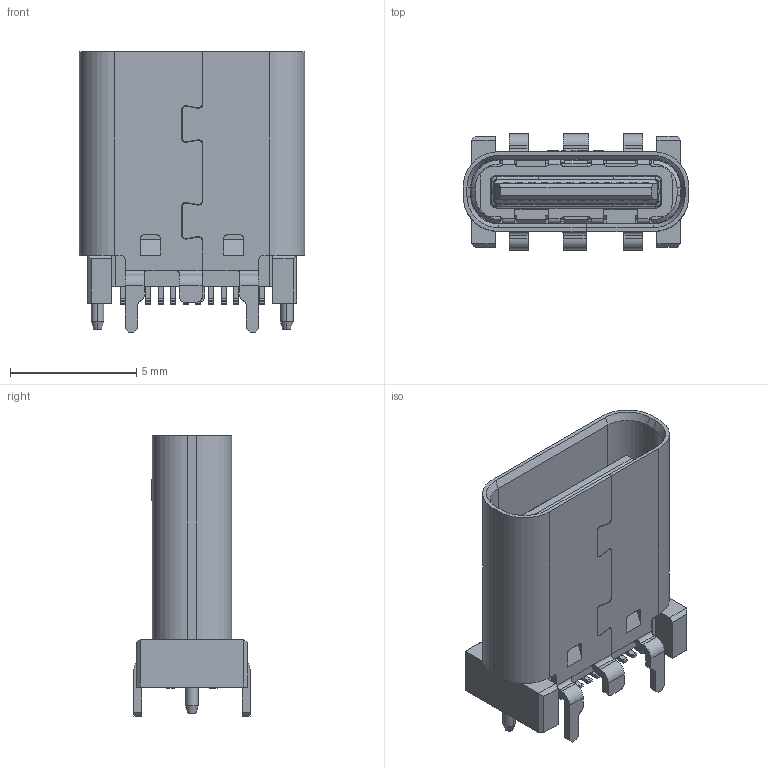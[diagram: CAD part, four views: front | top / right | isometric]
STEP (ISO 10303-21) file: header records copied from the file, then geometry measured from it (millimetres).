
FILE_DESCRIPTION (( 'STEP AP203' ), '1' );
FILE_NAME ('U5156-24PN10.0L.stp', '2026-09-21T07:41:05', ( '' ), ( '' ), 'SwSTEP 2.0', 'SolidWorks 2020', '' );
FILE_SCHEMA (( 'CONFIG_CONTROL_DESIGN' ));
Length unit declared in the file: millimetre
Products named in the file (30): U5156-24PN10.0L(2)^U5156-24PN10.0L; ____-____2-14659_1^DRW0001_7_ASM_1_ASM_P0001_ASM_ASM_48_ASM_ASM_1_ASM_24PIN____3D_ASM_1_ASM_24PIN____3D-1_____ASM_1_ASM_U5156-24PN10.0L(2)_U5156-24PN10.0L; PRT0004_16_1^P0001_ASM_ASM_48_ASM_ASM_1_ASM_24PIN____3D_ASM_1_ASM_24PIN____3D-1_____ASM_1_ASM_U5156-24PN10.0L(2)_U5156-24PN10.0L; ____-____-29115_1^DRW0001_7_ASM_1_ASM_P0001_ASM_ASM_48_ASM_ASM_1_ASM_24PIN____3D_ASM_1_ASM_24PIN____3D-1_____ASM_1_ASM_U5156-24PN10.0L(2)_U5156-24PN10.0L; 6_5HMD0002_30_1_1_17_1^6_5HMD0002_30_ASM_1_ASM_2_ASM_A_ASM_6_5HMD0001_ASM_35_ASM_1_ASM_1_A_ASM_6_5H16P0001_ASM_30_ASM_1_ASM_1__ASM_P0001_ASM_ASM_48_ASM_ASM_1_ASM_24PIN____3D_ASM_1_ASM_24PIN___~; DRW0001_7_ASM_1_ASM^P0001_ASM_ASM_48_ASM_ASM_1_ASM_24PIN____3D_ASM_1_ASM_24PIN____3D-1_____ASM_1_ASM_U5156-24PN10.0L(2)_U5156-24PN10.0L; ____-____-43489_1^DRW0001_7_ASM_1_ASM_P0001_ASM_ASM_48_ASM_ASM_1_ASM_24PIN____3D_ASM_1_ASM_24PIN____3D-1_____ASM_1_ASM_U5156-24PN10.0L(2)_U5156-24PN10.0L; 24PIN____3D_ASM_1_ASM^24PIN____3D-1_____ASM_1_ASM_U5156-24PN10.0L(2)_U5156-24PN10.0L; ____-____-59333_1^DRW0001_7_ASM_1_ASM_P0001_ASM_ASM_48_ASM_ASM_1_ASM_24PIN____3D_ASM_1_ASM_24PIN____3D-1_____ASM_1_ASM_U5156-24PN10.0L(2)_U5156-24PN10.0L; 6_5HMD0002_30_ASM_1_ASM_2_ASM_A_ASM^6_5HMD0001_ASM_35_ASM_1_ASM_1_A_ASM_6_5H16P0001_ASM_30_ASM_1_ASM_1__ASM_P0001_ASM_ASM_48_ASM_ASM_1_ASM_24PIN____3D_ASM_1_ASM_24PIN____3D-1_____ASM_1_ASM_U51~; 6_400_9_1_11_1^6_40001_ASM_13_ASM_1_ASM_3_ASM__ASM_6_5HMD0003_ASM_27_ASM_1_ASM_2_A_ASM_6_5HMD0001_ASM_35_ASM_1_ASM_1_A_ASM_6_5H16P0001_ASM_30_ASM_1_ASM_1__ASM_P0001_ASM_ASM_48_ASM_ASM_1_ASM_24P~; ____-____-47917_1^DRW0001_7_ASM_1_ASM_P0001_ASM_ASM_48_ASM_ASM_1_ASM_24PIN____3D_ASM_1_ASM_24PIN____3D-1_____ASM_1_ASM_U5156-24PN10.0L(2)_U5156-24PN10.0L; ____-____-54195_1^DRW0001_7_ASM_1_ASM_P0001_ASM_ASM_48_ASM_ASM_1_ASM_24PIN____3D_ASM_1_ASM_24PIN____3D-1_____ASM_1_ASM_U5156-24PN10.0L(2)_U5156-24PN10.0L; U5156-24PN10.0L; ____-____2-23582_1^DRW0001_7_ASM_1_ASM_P0001_ASM_ASM_48_ASM_ASM_1_ASM_24PIN____3D_ASM_1_ASM_24PIN____3D-1_____ASM_1_ASM_U5156-24PN10.0L(2)_U5156-24PN10.0L; WAIKE_1_1^P0001_ASM_ASM_48_ASM_ASM_1_ASM_24PIN____3D_ASM_1_ASM_24PIN____3D-1_____ASM_1_ASM_U5156-24PN10.0L(2)_U5156-24PN10.0L; 6_40001_ASM_13_ASM_1_ASM_3_ASM__ASM^6_5HMD0003_ASM_27_ASM_1_ASM_2_A_ASM_6_5HMD0001_ASM_35_ASM_1_ASM_1_A_ASM_6_5H16P0001_ASM_30_ASM_1_ASM_1__ASM_P0001_ASM_ASM_48_ASM_ASM_1_ASM_24PIN____3D_ASM_1_~; 6_5HMD0003_ASM_27_ASM_1_ASM_2_A_ASM^6_5HMD0001_ASM_35_ASM_1_ASM_1_A_ASM_6_5H16P0001_ASM_30_ASM_1_ASM_1__ASM_P0001_ASM_ASM_48_ASM_ASM_1_ASM_24PIN____3D_ASM_1_ASM_24PIN____3D-1_____ASM_1_ASM_U51~; 6_5HMD0001_ASM_35_ASM_1_ASM_1_A_ASM^6_5H16P0001_ASM_30_ASM_1_ASM_1__ASM_P0001_ASM_ASM_48_ASM_ASM_1_ASM_24PIN____3D_ASM_1_ASM_24PIN____3D-1_____ASM_1_ASM_U5156-24PN10.0L(2)_U5156-24PN10.0L; ____-____-588_1^DRW0001_7_ASM_1_ASM_P0001_ASM_ASM_48_ASM_ASM_1_ASM_24PIN____3D_ASM_1_ASM_24PIN____3D-1_____ASM_1_ASM_U5156-24PN10.0L(2)_U5156-24PN10.0L; 00008_3_1^P0001_ASM_ASM_48_ASM_ASM_1_ASM_24PIN____3D_ASM_1_ASM_24PIN____3D-1_____ASM_1_ASM_U5156-24PN10.0L(2)_U5156-24PN10.0L; 6_5H16P0001_ASM_30_ASM_1_ASM_1__ASM^P0001_ASM_ASM_48_ASM_ASM_1_ASM_24PIN____3D_ASM_1_ASM_24PIN____3D-1_____ASM_1_ASM_U5156-24PN10.0L(2)_U5156-24PN10.0L; ____-____-32809_1^DRW0001_7_ASM_1_ASM_P0001_ASM_ASM_48_ASM_ASM_1_ASM_24PIN____3D_ASM_1_ASM_24PIN____3D-1_____ASM_1_ASM_U5156-24PN10.0L(2)_U5156-24PN10.0L; 24PIN____3D-1_____ASM_1_ASM^U5156-24PN10.0L(2)_U5156-24PN10.0L; EM_1_1^P0001_ASM_ASM_48_ASM_ASM_1_ASM_24PIN____3D_ASM_1_ASM_24PIN____3D-1_____ASM_1_ASM_U5156-24PN10.0L(2)_U5156-24PN10.0L; ____-____2-15741_1^DRW0001_7_ASM_1_ASM_P0001_ASM_ASM_48_ASM_ASM_1_ASM_24PIN____3D_ASM_1_ASM_24PIN____3D-1_____ASM_1_ASM_U5156-24PN10.0L(2)_U5156-24PN10.0L; ____-____-5016_1^DRW0001_7_ASM_1_ASM_P0001_ASM_ASM_48_ASM_ASM_1_ASM_24PIN____3D_ASM_1_ASM_24PIN____3D-1_____ASM_1_ASM_U5156-24PN10.0L(2)_U5156-24PN10.0L; P0001_ASM_ASM_48_ASM_ASM_1_ASM^24PIN____3D_ASM_1_ASM_24PIN____3D-1_____ASM_1_ASM_U5156-24PN10.0L(2)_U5156-24PN10.0L; ____-____-49765_1^DRW0001_7_ASM_1_ASM_P0001_ASM_ASM_48_ASM_ASM_1_ASM_24PIN____3D_ASM_1_ASM_24PIN____3D-1_____ASM_1_ASM_U5156-24PN10.0L(2)_U5156-24PN10.0L
Assembly tree (41 placements, depth 10):
  U5156-24PN10.0L
    U5156-24PN10.0L(2)^U5156-24PN10.0L
      24PIN____3D-1_____ASM_1_ASM^U5156-24PN10.0L(2)_U5156-24PN10.0L
        24PIN____3D_ASM_1_ASM^24PIN____3D-1_____ASM_1_ASM_U5156-24PN10.0L(2)_U5156-24PN10.0L
          P0001_ASM_ASM_48_ASM_ASM_1_ASM^24PIN____3D_ASM_1_ASM_24PIN____3D-1_____ASM_1_ASM_U5156-24PN10.0L(2)_U5156-24PN10.0L
            DRW0001_7_ASM_1_ASM^P0001_ASM_ASM_48_ASM_ASM_1_ASM_24PIN____3D_ASM_1_ASM_24PIN____3D-1_____ASM_1_ASM_U5156-24PN10.0L(2)_U5156-24PN10.0L
              ____-____-588_1^DRW0001_7_ASM_1_ASM_P0001_ASM_ASM_48_ASM_ASM_1_ASM_24PIN____3D_ASM_1_ASM_24PIN____3D-1_____ASM_1_ASM_U5156-24PN10.0L(2)_U5156-24PN10.0L
              ____-____-5016_1^DRW0001_7_ASM_1_ASM_P0001_ASM_ASM_48_ASM_ASM_1_ASM_24PIN____3D_ASM_1_ASM_24PIN____3D-1_____ASM_1_ASM_U5156-24PN10.0L(2)_U5156-24PN10.0L
              ____-____2-14659_1^DRW0001_7_ASM_1_ASM_P0001_ASM_ASM_48_ASM_ASM_1_ASM_24PIN____3D_ASM_1_ASM_24PIN____3D-1_____ASM_1_ASM_U5156-24PN10.0L(2)_U5156-24PN10.0L
              ____-____2-15741_1^DRW0001_7_ASM_1_ASM_P0001_ASM_ASM_48_ASM_ASM_1_ASM_24PIN____3D_ASM_1_ASM_24PIN____3D-1_____ASM_1_ASM_U5156-24PN10.0L(2)_U5156-24PN10.0L
              ____-____2-23582_1^DRW0001_7_ASM_1_ASM_P0001_ASM_ASM_48_ASM_ASM_1_ASM_24PIN____3D_ASM_1_ASM_24PIN____3D-1_____ASM_1_ASM_U5156-24PN10.0L(2)_U5156-24PN10.0L
              ____-____-29115_1^DRW0001_7_ASM_1_ASM_P0001_ASM_ASM_48_ASM_ASM_1_ASM_24PIN____3D_ASM_1_ASM_24PIN____3D-1_____ASM_1_ASM_U5156-24PN10.0L(2)_U5156-24PN10.0L
              ____-____-32809_1^DRW0001_7_ASM_1_ASM_P0001_ASM_ASM_48_ASM_ASM_1_ASM_24PIN____3D_ASM_1_ASM_24PIN____3D-1_____ASM_1_ASM_U5156-24PN10.0L(2)_U5156-24PN10.0L
              ____-____-43489_1^DRW0001_7_ASM_1_ASM_P0001_ASM_ASM_48_ASM_ASM_1_ASM_24PIN____3D_ASM_1_ASM_24PIN____3D-1_____ASM_1_ASM_U5156-24PN10.0L(2)_U5156-24PN10.0L
              ____-____-47917_1^DRW0001_7_ASM_1_ASM_P0001_ASM_ASM_48_ASM_ASM_1_ASM_24PIN____3D_ASM_1_ASM_24PIN____3D-1_____ASM_1_ASM_U5156-24PN10.0L(2)_U5156-24PN10.0L
              ____-____-49765_1^DRW0001_7_ASM_1_ASM_P0001_ASM_ASM_48_ASM_ASM_1_ASM_24PIN____3D_ASM_1_ASM_24PIN____3D-1_____ASM_1_ASM_U5156-24PN10.0L(2)_U5156-24PN10.0L
              ____-____-54195_1^DRW0001_7_ASM_1_ASM_P0001_ASM_ASM_48_ASM_ASM_1_ASM_24PIN____3D_ASM_1_ASM_24PIN____3D-1_____ASM_1_ASM_U5156-24PN10.0L(2)_U5156-24PN10.0L
              ____-____-59333_1^DRW0001_7_ASM_1_ASM_P0001_ASM_ASM_48_ASM_ASM_1_ASM_24PIN____3D_ASM_1_ASM_24PIN____3D-1_____ASM_1_ASM_U5156-24PN10.0L(2)_U5156-24PN10.0L
            6_5H16P0001_ASM_30_ASM_1_ASM_1__ASM^P0001_ASM_ASM_48_ASM_ASM_1_ASM_24PIN____3D_ASM_1_ASM_24PIN____3D-1_____ASM_1_ASM_U5156-24PN10.0L(2)_U5156-24PN10.0L
              6_5HMD0001_ASM_35_ASM_1_ASM_1_A_ASM^6_5H16P0001_ASM_30_ASM_1_ASM_1__ASM_P0001_ASM_ASM_48_ASM_ASM_1_ASM_24PIN____3D_ASM_1_ASM_24PIN____3D-1_____ASM_1_ASM_U5156-24PN10.0L(2)_U5156-24PN10.0L
                6_5HMD0002_30_ASM_1_ASM_2_ASM_A_ASM^6_5HMD0001_ASM_35_ASM_1_ASM_1_A_ASM_6_5H16P0001_ASM_30_ASM_1_ASM_1__ASM_P0001_ASM_ASM_48_ASM_ASM_1_ASM_24PIN____3D_ASM_1_ASM_24PIN____3D-1_____ASM_1_ASM_U51~
                  6_5HMD0002_30_1_1_17_1^6_5HMD0002_30_ASM_1_ASM_2_ASM_A_ASM_6_5HMD0001_ASM_35_ASM_1_ASM_1_A_ASM_6_5H16P0001_ASM_30_ASM_1_ASM_1__ASM_P0001_ASM_ASM_48_ASM_ASM_1_ASM_24PIN____3D_ASM_1_ASM_24PIN___~
                6_5HMD0003_ASM_27_ASM_1_ASM_2_A_ASM^6_5HMD0001_ASM_35_ASM_1_ASM_1_A_ASM_6_5H16P0001_ASM_30_ASM_1_ASM_1__ASM_P0001_ASM_ASM_48_ASM_ASM_1_ASM_24PIN____3D_ASM_1_ASM_24PIN____3D-1_____ASM_1_ASM_U51~
                  6_40001_ASM_13_ASM_1_ASM_3_ASM__ASM^6_5HMD0003_ASM_27_ASM_1_ASM_2_A_ASM_6_5HMD0001_ASM_35_ASM_1_ASM_1_A_ASM_6_5H16P0001_ASM_30_ASM_1_ASM_1__ASM_P0001_ASM_ASM_48_ASM_ASM_1_ASM_24PIN____3D_ASM_1_~
            DRW0001_7_ASM_1_ASM^P0001_ASM_ASM_48_ASM_ASM_1_ASM_24PIN____3D_ASM_1_ASM_24PIN____3D-1_____ASM_1_ASM_U5156-24PN10.0L(2)_U5156-24PN10.0L
              ____-____-588_1^DRW0001_7_ASM_1_ASM_P0001_ASM_ASM_48_ASM_ASM_1_ASM_24PIN____3D_ASM_1_ASM_24PIN____3D-1_____ASM_1_ASM_U5156-24PN10.0L(2)_U5156-24PN10.0L
              ____-____-5016_1^DRW0001_7_ASM_1_ASM_P0001_ASM_ASM_48_ASM_ASM_1_ASM_24PIN____3D_ASM_1_ASM_24PIN____3D-1_____ASM_1_ASM_U5156-24PN10.0L(2)_U5156-24PN10.0L
              ____-____2-14659_1^DRW0001_7_ASM_1_ASM_P0001_ASM_ASM_48_ASM_ASM_1_ASM_24PIN____3D_ASM_1_ASM_24PIN____3D-1_____ASM_1_ASM_U5156-24PN10.0L(2)_U5156-24PN10.0L
              ____-____2-15741_1^DRW0001_7_ASM_1_ASM_P0001_ASM_ASM_48_ASM_ASM_1_ASM_24PIN____3D_ASM_1_ASM_24PIN____3D-1_____ASM_1_ASM_U5156-24PN10.0L(2)_U5156-24PN10.0L
              ____-____2-23582_1^DRW0001_7_ASM_1_ASM_P0001_ASM_ASM_48_ASM_ASM_1_ASM_24PIN____3D_ASM_1_ASM_24PIN____3D-1_____ASM_1_ASM_U5156-24PN10.0L(2)_U5156-24PN10.0L
              ____-____-29115_1^DRW0001_7_ASM_1_ASM_P0001_ASM_ASM_48_ASM_ASM_1_ASM_24PIN____3D_ASM_1_ASM_24PIN____3D-1_____ASM_1_ASM_U5156-24PN10.0L(2)_U5156-24PN10.0L
              ____-____-32809_1^DRW0001_7_ASM_1_ASM_P0001_ASM_ASM_48_ASM_ASM_1_ASM_24PIN____3D_ASM_1_ASM_24PIN____3D-1_____ASM_1_ASM_U5156-24PN10.0L(2)_U5156-24PN10.0L
              ____-____-43489_1^DRW0001_7_ASM_1_ASM_P0001_ASM_ASM_48_ASM_ASM_1_ASM_24PIN____3D_ASM_1_ASM_24PIN____3D-1_____ASM_1_ASM_U5156-24PN10.0L(2)_U5156-24PN10.0L
              ____-____-47917_1^DRW0001_7_ASM_1_ASM_P0001_ASM_ASM_48_ASM_ASM_1_ASM_24PIN____3D_ASM_1_ASM_24PIN____3D-1_____ASM_1_ASM_U5156-24PN10.0L(2)_U5156-24PN10.0L
              ____-____-49765_1^DRW0001_7_ASM_1_ASM_P0001_ASM_ASM_48_ASM_ASM_1_ASM_24PIN____3D_ASM_1_ASM_24PIN____3D-1_____ASM_1_ASM_U5156-24PN10.0L(2)_U5156-24PN10.0L
              ____-____-54195_1^DRW0001_7_ASM_1_ASM_P0001_ASM_ASM_48_ASM_ASM_1_ASM_24PIN____3D_ASM_1_ASM_24PIN____3D-1_____ASM_1_ASM_U5156-24PN10.0L(2)_U5156-24PN10.0L
              ____-____-59333_1^DRW0001_7_ASM_1_ASM_P0001_ASM_ASM_48_ASM_ASM_1_ASM_24PIN____3D_ASM_1_ASM_24PIN____3D-1_____ASM_1_ASM_U5156-24PN10.0L(2)_U5156-24PN10.0L
            00008_3_1^P0001_ASM_ASM_48_ASM_ASM_1_ASM_24PIN____3D_ASM_1_ASM_24PIN____3D-1_____ASM_1_ASM_U5156-24PN10.0L(2)_U5156-24PN10.0L
            WAIKE_1_1^P0001_ASM_ASM_48_ASM_ASM_1_ASM_24PIN____3D_ASM_1_ASM_24PIN____3D-1_____ASM_1_ASM_U5156-24PN10.0L(2)_U5156-24PN10.0L
            PRT0004_16_1^P0001_ASM_ASM_48_ASM_ASM_1_ASM_24PIN____3D_ASM_1_ASM_24PIN____3D-1_____ASM_1_ASM_U5156-24PN10.0L(2)_U5156-24PN10.0L
            EM_1_1^P0001_ASM_ASM_48_ASM_ASM_1_ASM_24PIN____3D_ASM_1_ASM_24PIN____3D-1_____ASM_1_ASM_U5156-24PN10.0L(2)_U5156-24PN10.0L
Bounding box: 8.94 x 4.6 x 11.1 mm (x, y, z)
Volume: 209.3 mm3; surface area: 1182.5 mm2
Topology: 30 solids, 30 shells, 2328 faces, 6774 edges, 4483 vertices
Faces by surface type: plane 1696, cylinder 571, cone 25, bspline 24, torus 12
Entity records: 65820 total; most frequent: CARTESIAN_POINT 13367, ORIENTED_EDGE 10668, DIRECTION 9559, EDGE_CURVE 5334, VECTOR 4211, LINE 4211, VERTEX_POINT 3523, AXIS2_PLACEMENT_3D 2674
